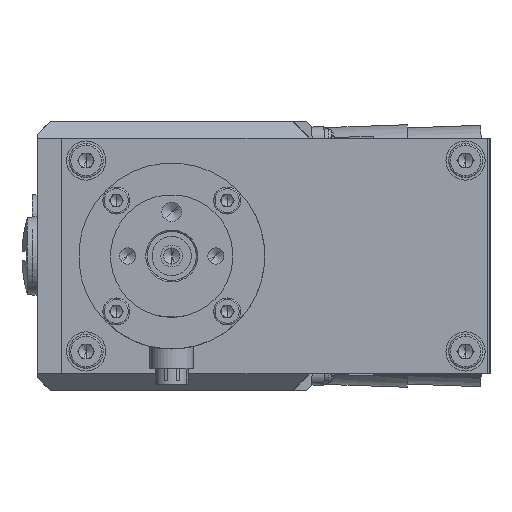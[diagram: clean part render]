
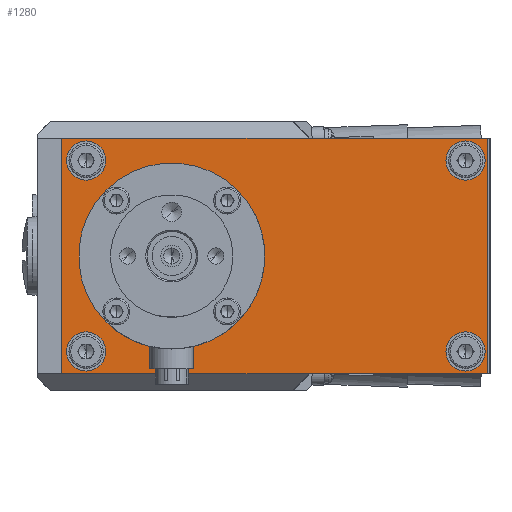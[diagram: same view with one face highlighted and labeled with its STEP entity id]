
A CAD part, left-side view. The second image highlights one B-rep face of the part: STEP entity #1280.
In plain terms, the highlighted planar face has unit normal (-1, 0, 0).
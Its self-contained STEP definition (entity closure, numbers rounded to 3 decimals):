
#377 = CARTESIAN_POINT ( 'NONE',  ( -106.001, 36.879, 37.182 ) ) ;
#1181 = EDGE_CURVE ( 'NONE', #43655, #17630, #50785, .T. ) ;
#1280 = ADVANCED_FACE ( 'NONE', ( #22063, #10662, #48462, #6117, #28060, #56031 ), #36112, .F. ) ;
#2177 = AXIS2_PLACEMENT_3D ( 'NONE', #12285, #22018, #59764 ) ;
#2244 = VERTEX_POINT ( 'NONE', #60265 ) ;
#2941 = CARTESIAN_POINT ( 'NONE',  ( -106.001, -23.121, 37.182 ) ) ;
#3006 = VERTEX_POINT ( 'NONE', #36860 ) ;
#3455 = DIRECTION ( 'NONE',  ( 0., 1., 0. ) ) ;
#5304 = AXIS2_PLACEMENT_3D ( 'NONE', #14713, #10211, #29101 ) ;
#6082 = AXIS2_PLACEMENT_3D ( 'NONE', #53838, #48599, #34231 ) ;
#6117 = FACE_BOUND ( 'NONE', #8407, .T. ) ;
#6150 = VERTEX_POINT ( 'NONE', #13438 ) ;
#6316 = EDGE_CURVE ( 'NONE', #7553, #43025, #35445, .T. ) ;
#6824 = CARTESIAN_POINT ( 'NONE',  ( -106.001, 54.379, 6.182 ) ) ;
#6826 = DIRECTION ( 'NONE',  ( -1., 0., 0. ) ) ;
#6957 = CARTESIAN_POINT ( 'NONE',  ( -106.001, 59.379, -2.318 ) ) ;
#7386 = ORIENTED_EDGE ( 'NONE', *, *, #24608, .T. ) ;
#7553 = VERTEX_POINT ( 'NONE', #377 ) ;
#7808 = VERTEX_POINT ( 'NONE', #2941 ) ;
#7858 = AXIS2_PLACEMENT_3D ( 'NONE', #38727, #44643, #38293 ) ;
#8407 = EDGE_LOOP ( 'NONE', ( #45616, #33525 ) ) ;
#8466 = EDGE_LOOP ( 'NONE', ( #39726, #7386, #26120, #16497 ) ) ;
#8716 = ORIENTED_EDGE ( 'NONE', *, *, #54445, .F. ) ;
#8956 = AXIS2_PLACEMENT_3D ( 'NONE', #48738, #19994, #29534 ) ;
#9396 = CARTESIAN_POINT ( 'NONE',  ( -106.001, 54.379, 2.182 ) ) ;
#10211 = DIRECTION ( 'NONE',  ( -1., 0., 0. ) ) ;
#10662 = FACE_BOUND ( 'NONE', #32569, .T. ) ;
#10726 = DIRECTION ( 'NONE',  ( -1., 0., 0. ) ) ;
#10948 = EDGE_LOOP ( 'NONE', ( #24433, #61429 ) ) ;
#12285 = CARTESIAN_POINT ( 'NONE',  ( -106.001, 36.879, 21.682 ) ) ;
#12997 = VECTOR ( 'NONE', #57876, 1000. ) ;
#13438 = CARTESIAN_POINT ( 'NONE',  ( -106.001, -23.121, 45.182 ) ) ;
#14210 = EDGE_CURVE ( 'NONE', #43025, #7553, #43179, .T. ) ;
#14713 = CARTESIAN_POINT ( 'NONE',  ( -106.001, 36.879, 21.682 ) ) ;
#16497 = ORIENTED_EDGE ( 'NONE', *, *, #1181, .T. ) ;
#17630 = VERTEX_POINT ( 'NONE', #60891 ) ;
#19141 = DIRECTION ( 'NONE',  ( 0., 0., 1. ) ) ;
#19732 = CARTESIAN_POINT ( 'NONE',  ( -106.001, -23.121, 6.182 ) ) ;
#19823 = AXIS2_PLACEMENT_3D ( 'NONE', #54359, #25662, #25455 ) ;
#19994 = DIRECTION ( 'NONE',  ( -1., 0., 0. ) ) ;
#20066 = CARTESIAN_POINT ( 'NONE',  ( -106.001, -27.621, -2.318 ) ) ;
#20400 = DIRECTION ( 'NONE',  ( -1., 0., 0. ) ) ;
#21059 = EDGE_CURVE ( 'NONE', #36771, #24151, #42815, .T. ) ;
#21753 = CARTESIAN_POINT ( 'NONE',  ( -106.001, -27.621, -2.318 ) ) ;
#22018 = DIRECTION ( 'NONE',  ( -1., 0., 0. ) ) ;
#22063 = FACE_BOUND ( 'NONE', #25906, .T. ) ;
#23953 = EDGE_CURVE ( 'NONE', #52567, #43655, #54117, .T. ) ;
#24151 = VERTEX_POINT ( 'NONE', #53603 ) ;
#24433 = ORIENTED_EDGE ( 'NONE', *, *, #43029, .F. ) ;
#24608 = EDGE_CURVE ( 'NONE', #38687, #52567, #52625, .T. ) ;
#25455 = DIRECTION ( 'NONE',  ( 0., 0., 1. ) ) ;
#25662 = DIRECTION ( 'NONE',  ( -1., 0., 0. ) ) ;
#25906 = EDGE_LOOP ( 'NONE', ( #51548, #56152 ) ) ;
#26120 = ORIENTED_EDGE ( 'NONE', *, *, #23953, .T. ) ;
#26210 = CARTESIAN_POINT ( 'NONE',  ( -106.001, -27.621, 45.682 ) ) ;
#26433 = DIRECTION ( 'NONE',  ( 0., 0., 1. ) ) ;
#26940 = VECTOR ( 'NONE', #3455, 1000. ) ;
#27203 = EDGE_CURVE ( 'NONE', #6150, #7808, #52273, .T. ) ;
#28060 = FACE_BOUND ( 'NONE', #28507, .T. ) ;
#28140 = CIRCLE ( 'NONE', #39643, 4. ) ;
#28507 = EDGE_LOOP ( 'NONE', ( #48911, #51271 ) ) ;
#28804 = VERTEX_POINT ( 'NONE', #6824 ) ;
#29101 = DIRECTION ( 'NONE',  ( 0., 0., 1. ) ) ;
#29534 = DIRECTION ( 'NONE',  ( 0., 0., 1. ) ) ;
#30194 = DIRECTION ( 'NONE',  ( 0., 0., 1. ) ) ;
#32569 = EDGE_LOOP ( 'NONE', ( #57783, #8716 ) ) ;
#33525 = ORIENTED_EDGE ( 'NONE', *, *, #47329, .F. ) ;
#33920 = CIRCLE ( 'NONE', #7858, 4. ) ;
#34231 = DIRECTION ( 'NONE',  ( 0., 0., 1. ) ) ;
#35242 = CARTESIAN_POINT ( 'NONE',  ( -106.001, 54.379, 2.182 ) ) ;
#35365 = CARTESIAN_POINT ( 'NONE',  ( -106.001, 36.879, 6.182 ) ) ;
#35445 = CIRCLE ( 'NONE', #5304, 15.5 ) ;
#36112 = PLANE ( 'NONE',  #61302 ) ;
#36771 = VERTEX_POINT ( 'NONE', #19732 ) ;
#36860 = CARTESIAN_POINT ( 'NONE',  ( -106.001, 54.379, 45.182 ) ) ;
#37384 = EDGE_CURVE ( 'NONE', #17630, #38687, #41508, .T. ) ;
#38191 = EDGE_CURVE ( 'NONE', #28804, #57937, #54985, .T. ) ;
#38293 = DIRECTION ( 'NONE',  ( 0., 0., 1. ) ) ;
#38636 = AXIS2_PLACEMENT_3D ( 'NONE', #9396, #43254, #19141 ) ;
#38687 = VERTEX_POINT ( 'NONE', #61915 ) ;
#38727 = CARTESIAN_POINT ( 'NONE',  ( -106.001, -23.121, 2.182 ) ) ;
#38884 = CARTESIAN_POINT ( 'NONE',  ( -106.001, 54.379, -1.818 ) ) ;
#39643 = AXIS2_PLACEMENT_3D ( 'NONE', #35242, #10726, #30194 ) ;
#39726 = ORIENTED_EDGE ( 'NONE', *, *, #37384, .T. ) ;
#40290 = CARTESIAN_POINT ( 'NONE',  ( -106.001, -23.121, 41.182 ) ) ;
#40584 = VECTOR ( 'NONE', #56579, 1000. ) ;
#41508 = LINE ( 'NONE', #26210, #46060 ) ;
#42385 = EDGE_CURVE ( 'NONE', #57937, #28804, #28140, .T. ) ;
#42452 = CARTESIAN_POINT ( 'NONE',  ( -106.001, 59.379, -2.318 ) ) ;
#42815 = CIRCLE ( 'NONE', #45063, 4. ) ;
#43025 = VERTEX_POINT ( 'NONE', #35365 ) ;
#43029 = EDGE_CURVE ( 'NONE', #3006, #2244, #53796, .T. ) ;
#43179 = CIRCLE ( 'NONE', #2177, 15.5 ) ;
#43254 = DIRECTION ( 'NONE',  ( -1., 0., 0. ) ) ;
#43655 = VERTEX_POINT ( 'NONE', #6957 ) ;
#43706 = CARTESIAN_POINT ( 'NONE',  ( -106.001, 59.379, 45.682 ) ) ;
#44643 = DIRECTION ( 'NONE',  ( -1., 0., 0. ) ) ;
#44675 = CIRCLE ( 'NONE', #8956, 4. ) ;
#45063 = AXIS2_PLACEMENT_3D ( 'NONE', #59830, #6826, #50173 ) ;
#45347 = DIRECTION ( 'NONE',  ( 0., 0., 1. ) ) ;
#45616 = ORIENTED_EDGE ( 'NONE', *, *, #27203, .F. ) ;
#45715 = EDGE_CURVE ( 'NONE', #2244, #3006, #44675, .T. ) ;
#45852 = DIRECTION ( 'NONE',  ( 0., 0., -1. ) ) ;
#46060 = VECTOR ( 'NONE', #26433, 1000. ) ;
#47329 = EDGE_CURVE ( 'NONE', #7808, #6150, #62702, .T. ) ;
#48462 = FACE_BOUND ( 'NONE', #10948, .T. ) ;
#48599 = DIRECTION ( 'NONE',  ( -1., 0., 0. ) ) ;
#48738 = CARTESIAN_POINT ( 'NONE',  ( -106.001, 54.379, 41.182 ) ) ;
#48911 = ORIENTED_EDGE ( 'NONE', *, *, #6316, .F. ) ;
#50173 = DIRECTION ( 'NONE',  ( 0., 0., 1. ) ) ;
#50713 = DIRECTION ( 'NONE',  ( 1., 0., 0. ) ) ;
#50785 = LINE ( 'NONE', #20066, #12997 ) ;
#51271 = ORIENTED_EDGE ( 'NONE', *, *, #14210, .F. ) ;
#51548 = ORIENTED_EDGE ( 'NONE', *, *, #38191, .F. ) ;
#51674 = CARTESIAN_POINT ( 'NONE',  ( -106.001, 59.379, 45.682 ) ) ;
#52273 = CIRCLE ( 'NONE', #6082, 4. ) ;
#52567 = VERTEX_POINT ( 'NONE', #43706 ) ;
#52625 = LINE ( 'NONE', #51674, #26940 ) ;
#53603 = CARTESIAN_POINT ( 'NONE',  ( -106.001, -23.121, -1.818 ) ) ;
#53796 = CIRCLE ( 'NONE', #19823, 4. ) ;
#53838 = CARTESIAN_POINT ( 'NONE',  ( -106.001, -23.121, 41.182 ) ) ;
#54117 = LINE ( 'NONE', #42452, #40584 ) ;
#54359 = CARTESIAN_POINT ( 'NONE',  ( -106.001, 54.379, 41.182 ) ) ;
#54445 = EDGE_CURVE ( 'NONE', #24151, #36771, #33920, .T. ) ;
#54985 = CIRCLE ( 'NONE', #38636, 4. ) ;
#55624 = AXIS2_PLACEMENT_3D ( 'NONE', #40290, #20400, #45347 ) ;
#56031 = FACE_OUTER_BOUND ( 'NONE', #8466, .T. ) ;
#56152 = ORIENTED_EDGE ( 'NONE', *, *, #42385, .F. ) ;
#56579 = DIRECTION ( 'NONE',  ( 0., 0., -1. ) ) ;
#57783 = ORIENTED_EDGE ( 'NONE', *, *, #21059, .F. ) ;
#57876 = DIRECTION ( 'NONE',  ( 0., -1., 0. ) ) ;
#57937 = VERTEX_POINT ( 'NONE', #38884 ) ;
#59764 = DIRECTION ( 'NONE',  ( 0., 0., 1. ) ) ;
#59830 = CARTESIAN_POINT ( 'NONE',  ( -106.001, -23.121, 2.182 ) ) ;
#60265 = CARTESIAN_POINT ( 'NONE',  ( -106.001, 54.379, 37.182 ) ) ;
#60891 = CARTESIAN_POINT ( 'NONE',  ( -106.001, -27.621, -2.318 ) ) ;
#61302 = AXIS2_PLACEMENT_3D ( 'NONE', #21753, #50713, #45852 ) ;
#61429 = ORIENTED_EDGE ( 'NONE', *, *, #45715, .F. ) ;
#61915 = CARTESIAN_POINT ( 'NONE',  ( -106.001, -27.621, 45.682 ) ) ;
#62702 = CIRCLE ( 'NONE', #55624, 4. ) ;
